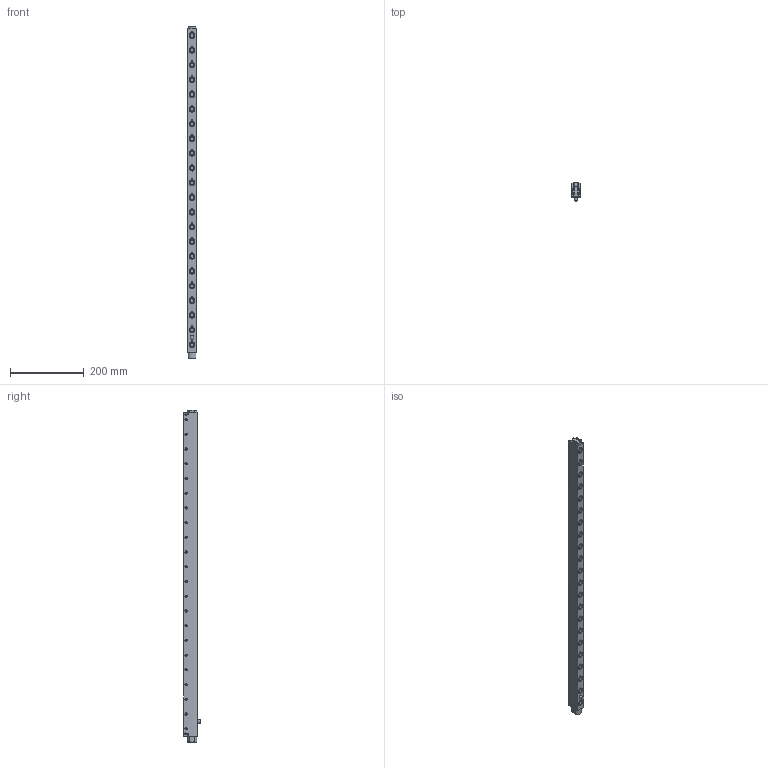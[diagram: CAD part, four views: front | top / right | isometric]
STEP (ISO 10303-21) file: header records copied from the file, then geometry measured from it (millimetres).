
FILE_DESCRIPTION(/* description */ (''),/* implementation_level */ '2;1');
FILE_NAME(/* name */ 'S:\EASCN Vault\Designs\Standard Part\DIE LIFTERS\EHR\EHR- 3D step\EHR22 - 3D step complete serie\EHR22-22.stp',/* time_stamp */ '2019-07-30T16:28:58+08:00',/* author */ ('yue.yang'),/* organization */ (''),/* preprocessor_version */ 'ST-DEVELOPER v17',/* originating_system */ 'Autodesk Inventor 2019',/* authorisation */ '');
FILE_SCHEMA (('AUTOMOTIVE_DESIGN { 1 0 10303 214 3 1 1 }'));
Length unit declared in the file: millimetre
Products named in the file (1): EHR22-22_Shrinkwrap_1
Bounding box: 21.8 x 48.05 x 902 mm (x, y, z)
Volume: 548097.7 mm3; surface area: 214403.4 mm2
Topology: 23 solids, 23 shells, 1305 faces, 3755 edges, 2617 vertices
Faces by surface type: cylinder 438, plane 354, cone 248, torus 220, sphere 45
Full cylindrical faces by diameter (mm): 3 x9, 3.2 x8, 4 x8, 5 x88, 6 x31, 8.566 x1, 10 x3, 11 x22, 12.5 x44, 13.4 x22, 13.8 x22, 15.95 x44, 16 x44
Entity records: 48658 total; most frequent: CARTESIAN_POINT 11254, DIRECTION 8306, ORIENTED_EDGE 7450, EDGE_CURVE 3725, AXIS2_PLACEMENT_3D 3681, VERTEX_POINT 2617, CIRCLE 2375, EDGE_LOOP 1560
